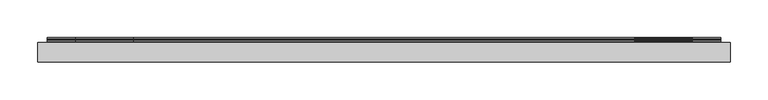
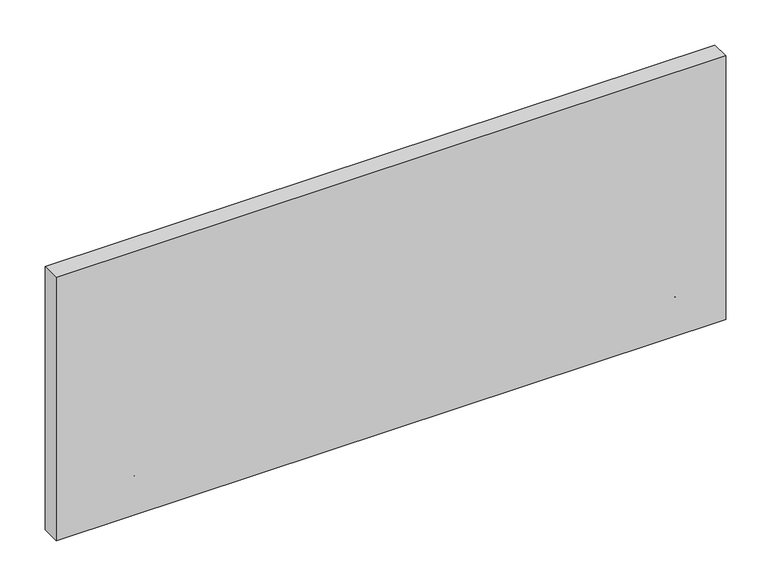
"""IFC4 building model written with IfcOpenShell, lengths in millimetres: furniture geometry, Geiger_GeigerOneCasegoods_WallTileTopTileorWallMounted : TFL 36Wx 1.25Dx 15H."""

from ifc_helpers import new_model, si_unit, point, frame, frame_2d, origin, origin_with_axes, place, context, project, spatial, polyline, circle_curve, trimmed, segment, composite_curve, outline, extrude, source, transform, mapped, element, save


def furniture_565fbe1d(model_context):
    return source(origin(), model_context, "Body", "SweptSolid", [
        extrude(outline(composite_curve([segment(polyline([(2.8956, 38.227), (2.8956, 31.2928), (3.7084, 30.5054), (5.6134, 30.5054), (6.4008, 29.6926), (6.4008, -2.0066), (5.1054, -2.0066), (3.5052, -0.4064), (3.5052, 24.1808), (2.6924, 24.9936), (0.8128, 24.9936), (0.0, 25.781), (0.0, 39.1922)]), True, "CONTINUOUS"), segment(trimmed(circle_curve(frame_2d((0.8034421, 39.1828421)), 0.8034966), [point((0.0, 39.1922))], [point((1.3716, 39.751))], False, "CARTESIAN"), True, "CONTINUOUS"), segment(polyline([(1.3716, 39.751), (2.8956, 38.227)]), True, "CONTINUOUS")], self_intersect=False)), frame((12.5, 0.0, 0.0), z_axis=(1.0, 0.0, 0.0), x_axis=(0.0, 1.0, 0.0)), (0.0, 0.0, 1.0), 888.0),
        extrude(outline(composite_curve([segment(polyline([(2.8956, 329.8434), (3.7084, 329.0306), (5.588, 329.0306), (6.4008, 328.2432), (6.4008, 314.832)]), True, "CONTINUOUS"), segment(trimmed(circle_curve(frame_2d((5.5973579, 314.8413579)), 0.8034966), [point((6.4008, 314.832))], [point((5.0292, 314.2732))], False, "CARTESIAN"), True, "CONTINUOUS"), segment(polyline([(5.0292, 314.2732), (3.5052, 315.7972), (3.5052, 322.7314), (2.6913677, 323.5198), (0.7864312, 323.5198), (0.0, 324.3316), (0.0, 356.0308), (1.2954, 356.0308), (2.8956, 354.4306), (2.8956, 329.8434)]), True, "CONTINUOUS")], self_intersect=False)), frame((787.0, 0.0, 0.0), z_axis=(1.0, 0.0, 0.0), x_axis=(0.0, 1.0, 0.0)), (0.0, 0.0, 1.0), 76.0),
        extrude(outline(composite_curve([segment(polyline([(3.5052, 315.7972), (3.5052, 322.7314), (2.6913677, 323.5198), (0.7864313, 323.5198), (0.0, 324.3316), (0.0, 356.0308), (1.2954, 356.0308), (2.8956, 354.4306), (2.8956, 329.8434), (3.7084, 329.0306), (5.588, 329.0306), (6.4008, 328.2432), (6.4008, 314.832)]), True, "CONTINUOUS"), segment(trimmed(circle_curve(frame_2d((5.5973579, 314.8413579)), 0.8034966), [point((6.4008, 314.832))], [point((5.0292, 314.2732))], False, "CARTESIAN"), True, "CONTINUOUS"), segment(polyline([(5.0292, 314.2732), (3.5052, 315.7972)]), True, "CONTINUOUS")], self_intersect=False)), frame((50.0, 0.0, 0.0), z_axis=(1.0, 0.0, 0.0), x_axis=(0.0, 1.0, 0.0)), (0.0, 0.0, 1.0), 76.0),
        extrude(outline(composite_curve([segment(polyline([(2.8956, 38.227), (2.8956, 31.2928), (3.7084, 30.5054), (5.6134, 30.5054), (6.4008, 29.6926), (6.4008, -2.0066), (5.1054, -2.0066), (3.5052, -0.4064), (3.5052, 24.1808), (2.6924, 24.9936), (0.8128, 24.9936), (0.0, 25.781), (0.0, 39.1922)]), True, "CONTINUOUS"), segment(trimmed(circle_curve(frame_2d((0.8034421, 39.1828421)), 0.8034966), [point((0.0, 39.1922))], [point((1.3716, 39.751))], False, "CARTESIAN"), True, "CONTINUOUS"), segment(polyline([(1.3716, 39.751), (2.8956, 38.227)]), True, "CONTINUOUS")], self_intersect=False)), frame((12.5, 0.0, 0.0), z_axis=(1.0, 0.0, 0.0), x_axis=(0.0, 1.0, 0.0)), (0.0, 0.0, 1.0), 888.0),
        extrude(outline(composite_curve([segment(polyline([(2.8956, 321.7418), (2.8956, 314.8076), (3.7084, 314.0202), (5.6134, 314.0202), (6.4008, 313.2074), (6.4008, 281.5082), (5.1054, 281.5082), (3.5052, 283.1084), (3.5052, 307.6956), (2.6924, 308.5084), (0.8128, 308.5084), (0.0, 309.2958), (0.0, 322.707)]), True, "CONTINUOUS"), segment(trimmed(circle_curve(frame_2d((0.8034421, 322.6976421)), 0.8034966), [point((0.0, 322.707))], [point((1.3716, 323.2658))], False, "CARTESIAN"), True, "CONTINUOUS"), segment(polyline([(1.3716, 323.2658), (2.8956, 321.7418)]), True, "CONTINUOUS")], self_intersect=False)), frame((12.5, 0.0, 0.0), z_axis=(1.0, 0.0, 0.0), x_axis=(0.0, 1.0, 0.0)), (0.0, 0.0, 1.0), 888.0),
        extrude(outline(composite_curve([segment(polyline([(2.8956, 46.3286), (3.7084, 45.5158), (5.588, 45.5158), (6.4008, 44.7284), (6.4008, 31.3172)]), True, "CONTINUOUS"), segment(trimmed(circle_curve(frame_2d((5.5973579, 31.3265579)), 0.8034966), [point((6.4008, 31.3172))], [point((5.0292, 30.7584))], False, "CARTESIAN"), True, "CONTINUOUS"), segment(polyline([(5.0292, 30.7584), (3.5052, 32.2824), (3.5052, 39.2166), (2.6913677, 40.005), (0.7864312, 40.005), (0.0, 40.8168), (0.0, 72.516), (1.2954, 72.516), (2.8956, 70.9158), (2.8956, 46.3286)]), True, "CONTINUOUS")], self_intersect=False)), frame((787.0, 0.0, 0.0), z_axis=(1.0, 0.0, 0.0), x_axis=(0.0, 1.0, 0.0)), (0.0, 0.0, 1.0), 76.0),
        extrude(outline(composite_curve([segment(polyline([(3.5052, 32.2824), (3.5052, 39.2166), (2.6913677, 40.005), (0.7864312, 40.005), (0.0, 40.8168), (0.0, 72.516), (1.2954, 72.516), (2.8956, 70.9158), (2.8956, 46.3286), (3.7084, 45.5158), (5.588, 45.5158), (6.4008, 44.7284), (6.4008, 31.3172)]), True, "CONTINUOUS"), segment(trimmed(circle_curve(frame_2d((5.5973579, 31.3265579)), 0.8034966), [point((6.4008, 31.3172))], [point((5.0292, 30.7584))], False, "CARTESIAN"), True, "CONTINUOUS"), segment(polyline([(5.0292, 30.7584), (3.5052, 32.2824)]), True, "CONTINUOUS")], self_intersect=False)), frame((50.0, 0.0, 0.0), z_axis=(1.0, 0.0, 0.0), x_axis=(0.0, 1.0, 0.0)), (0.0, 0.0, 1.0), 76.0),
        extrude(outline(polyline([(913.0, 0.0), (913.0, -26.0), (0.0, -26.0), (0.0, 0.0), (913.0, 0.0)])), origin_with_axes(), (0.0, 0.0, 1.0), 380.0),
    ])


if __name__ == "__main__":
    model = new_model("IFC4")
    model_context = context("Model", 3, world=origin())
    ifc_project = project(units=[si_unit("LENGTHUNIT", "METRE", prefix="MILLI")], contexts=[model_context])
    site = spatial("IfcSite", under=ifc_project)
    building = spatial("IfcBuilding", under=site)
    placement = place(None, origin())
    furniture_shape = furniture_565fbe1d(model_context)
    element("IfcFurniture", 1, ObjectType="Geiger_GeigerOneCasegoods_WallTileTopTileorWallMounted : TFL 36Wx 1.25Dx 15H", at=placement, inside=building, context=model_context, shape_type="MappedRepresentation", body=[
        mapped(furniture_shape, transform((0.0, 0.0, 0.0), x_axis=(1.0, 0.0, 0.0), y_axis=(0.0, 1.0, 0.0), z_axis=(0.0, 0.0, 1.0))),
    ])
    save(model, "model.ifc")
